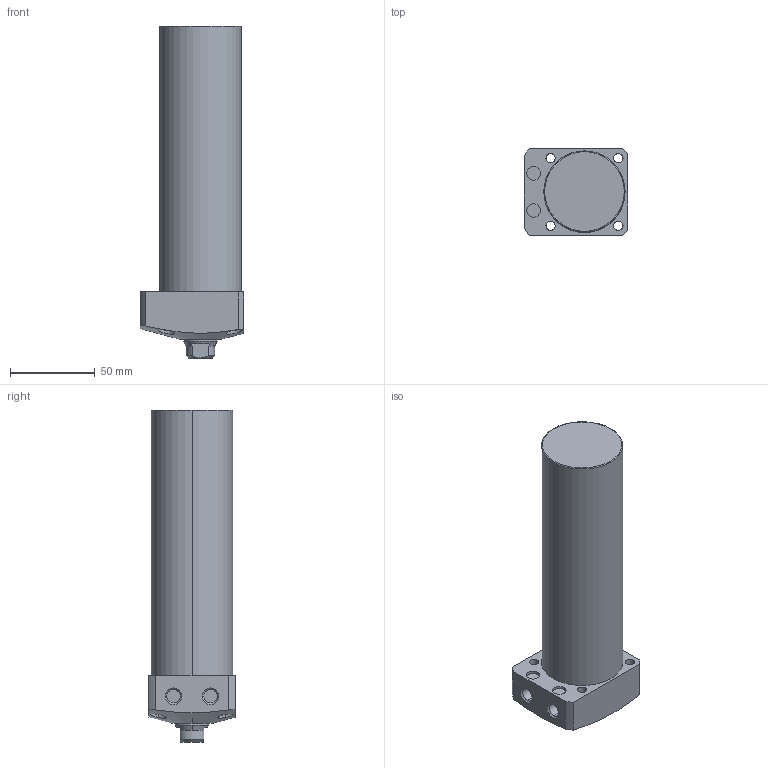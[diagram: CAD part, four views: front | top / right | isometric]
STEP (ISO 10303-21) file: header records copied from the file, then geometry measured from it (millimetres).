
FILE_DESCRIPTION (( 'STEP AP203' ), '1' );
FILE_NAME ('CLL-048CA-130.STEP', '2019-12-21T07:26:49', ( '' ), ( '' ), 'SwSTEP 2.0', 'SolidWorks 2015', '' );
FILE_SCHEMA (( 'CONFIG_CONTROL_DESIGN' ));
Length unit declared in the file: millimetre
Products named in the file (1): CLL-048CA-130
Bounding box: 61 x 51 x 196 mm (x, y, z)
Volume: 358300.9 mm3; surface area: 38451.5 mm2
Topology: 1 solids, 1 shells, 74 faces, 170 edges, 107 vertices
Faces by surface type: cylinder 35, plane 22, cone 15, torus 2
Entity records: 2535 total; most frequent: CARTESIAN_POINT 748, DIRECTION 374, ORIENTED_EDGE 336, EDGE_CURVE 168, AXIS2_PLACEMENT_3D 155, VERTEX_POINT 107, EDGE_LOOP 93, CIRCLE 80
